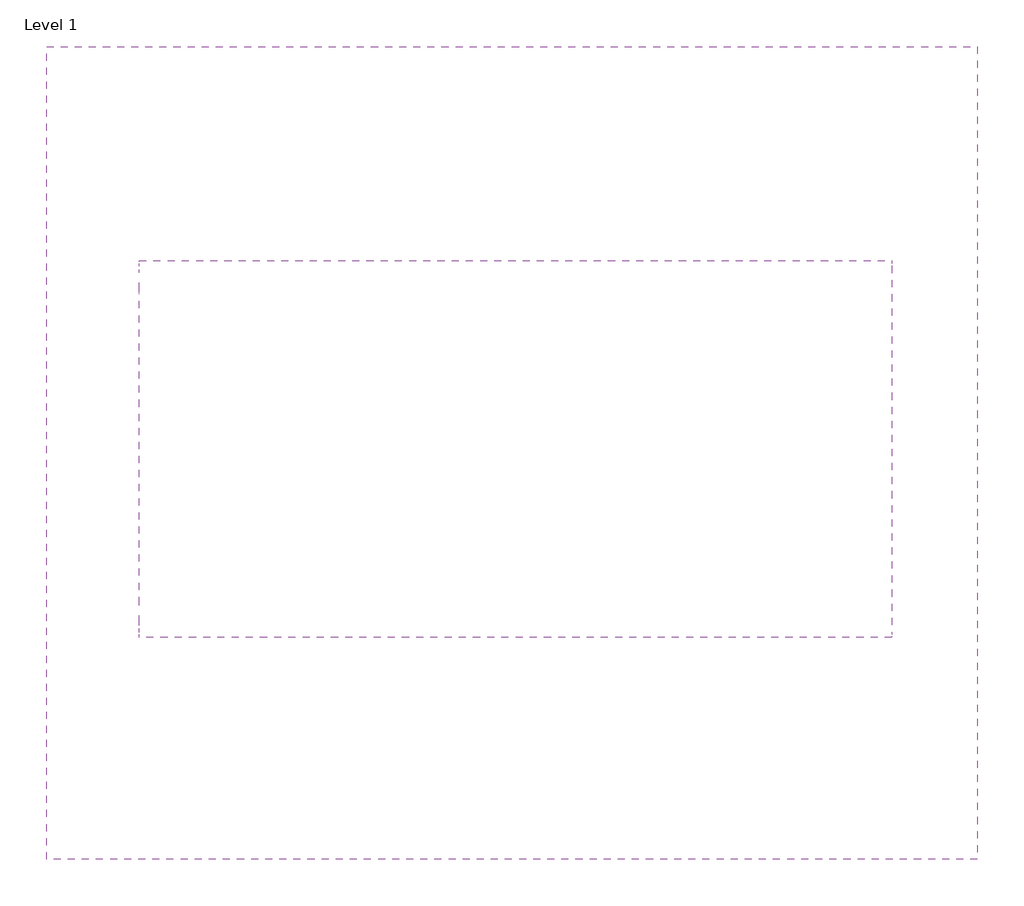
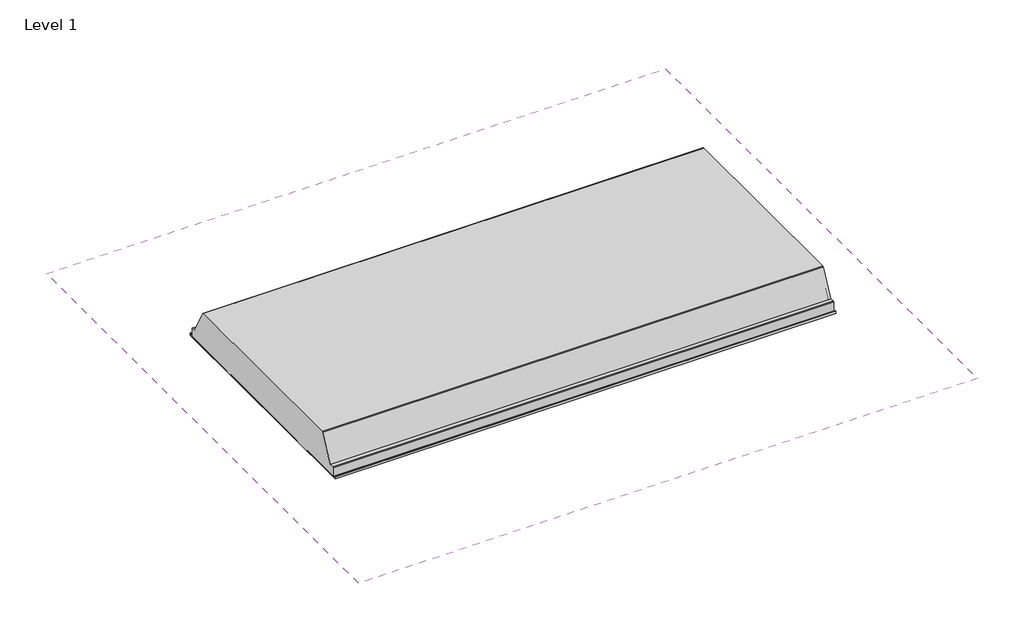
# One storey: 1 covering, 1 light fixture.
"""IFC4 building model written with IfcOpenShell, lengths in millimetres."""

from ifc_helpers import new_model, si_unit, frame, origin, place, context, project, spatial, polyline, outline, extrude, transform, mapped, element, save
from components import elt_24_elt_24_36w_af5d0431

model = new_model("IFC4")

# Units and contexts
model_context = context("Model", 3, world=origin())
ifc_project = project(units=[si_unit("LENGTHUNIT", "METRE", prefix="MILLI")], contexts=[model_context])

# Site, building, storey
site = spatial("IfcSite", under=ifc_project)
building = spatial("IfcBuilding", under=site)
storey = spatial("IfcBuildingStorey", under=building, Name="Level 1", Elevation=0.0)

# Covering
placement = place(None, origin())
element("IfcCovering", 1, ObjectType="Plain", at=placement, inside=storey, context=model_context, shape_type="SweptSolid", body=[
    extrude(outline(polyline([(-2829.1447554, 3100.8443287), (-1329.1447554, 3100.8443287), (-1329.1447554, 1790.8443287), (-2829.1447554, 1790.8443287), (-2829.1447554, 3100.8443287)]), holes=[polyline([(-2679.8689206, 2756.7372811), (-2679.8689206, 2147.1372811), (-1466.8447018, 2147.1372811), (-1466.8447018, 2756.7372811), (-2679.8689206, 2756.7372811)])]), frame((0.0, 0.0, 2600.0), z_axis=(0.0, 0.0, 1.0), x_axis=(1.0, 0.0, 0.0)), (0.0, 0.0, 1.0), 57.0),
])

# Light fixture
elt_24_elt_24_36w_shape = elt_24_elt_24_36w_af5d0431(model_context)
element("IfcLightFixture", 2, ObjectType="ELT-24 : ELT-24_36W", at=placement, inside=storey, context=model_context, shape_type="MappedRepresentation", body=[
    mapped(elt_24_elt_24_36w_shape, transform((-2073.3689206, 2845.2646776, 2600.0), x_axis=(0.0, -1.0, 0.0), y_axis=(-1.0, 0.0, 0.0), z_axis=(0.0, 0.0, -1.0))),
])

save(model, "model.ifc")
